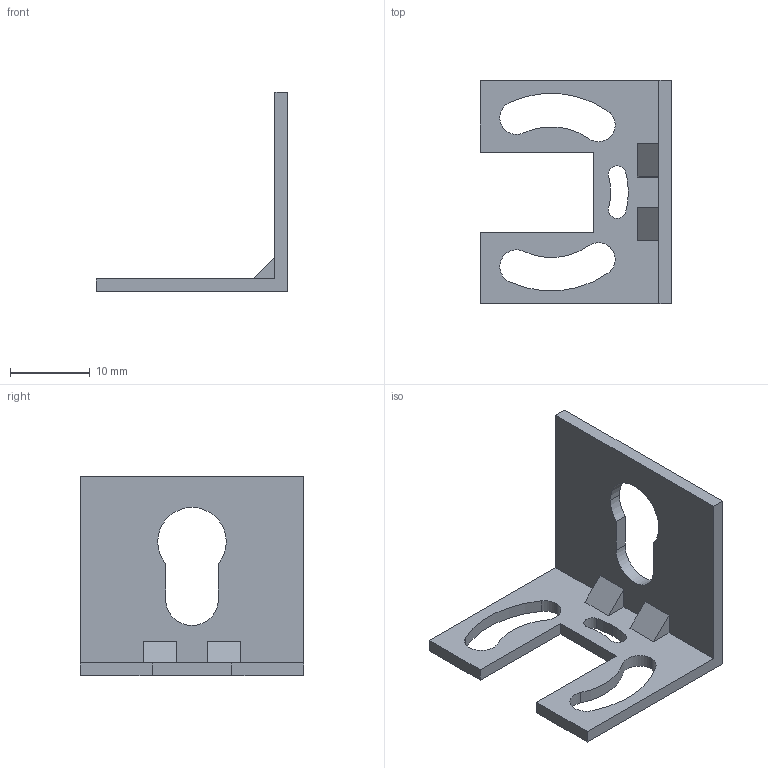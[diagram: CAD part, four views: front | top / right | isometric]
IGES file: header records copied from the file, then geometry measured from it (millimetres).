
Start section: SolidWorks IGES FILE using analytic representation for surfaces
Global section: file name: \\intra-srv04\開発データ\CAD_Data\CAD委員会\3D電子ｶﾀﾛｸﾞ\製品カタログ（新）\0_IGES\MS-SF2N-5.IGS,41HSolidWorks 2004; native system: by SolidWorks Corporation; preprocessor: Version 5.3; author: mf1158; date: 050905.152910; units: millimetre
Bounding box: 24 x 28 x 25 mm (x, y, z)
Volume: 1547.1 mm3; surface area: 2421 mm2
Topology: 1 solids, 1 shells, 46 faces, 132 edges, 88 vertices
Faces by surface type: plane 26, revolution 20
